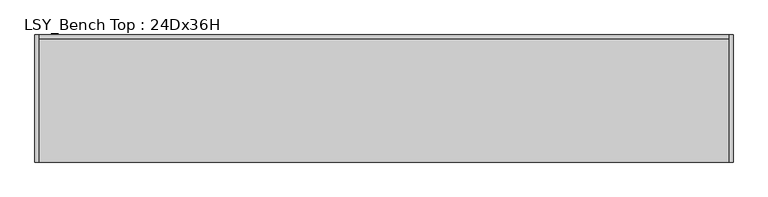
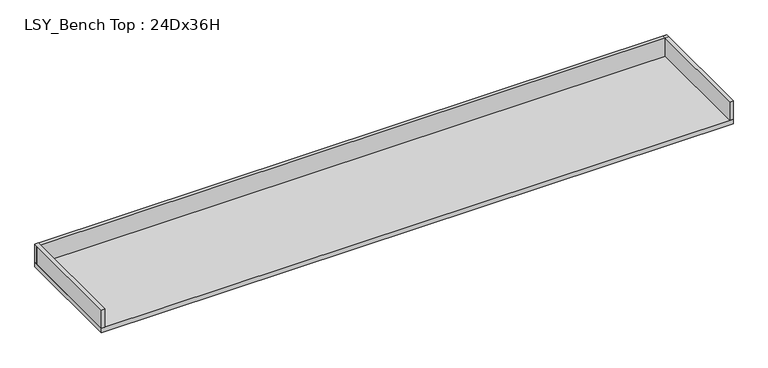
"""IFC4 building model written with IfcOpenShell, lengths in millimetres: furniture geometry, LSY_Bench Top : 24Dx36H."""

from ifc_helpers import new_model, si_unit, frame, origin, place, context, project, spatial, polyline, outline, extrude, source, transform, mapped, element, save


def lsy_bench_top_24dx36h_08832318(model_context):
    return source(origin(), model_context, "Body", "SweptSolid", [
        extrude(outline(polyline([(2147.5752049, -615.0), (2147.5752049, -1224.6), (2128.5752049, -1224.6), (2128.5752049, -615.0), (2147.5752049, -615.0)])), frame((0.0, 0.0, 914.4), z_axis=(0.0, 0.0, 1.0), x_axis=(1.0, 0.0, 0.0)), (0.0, 0.0, 1.0), 102.0),
        extrude(outline(polyline([(-1200.4622951, -615.0), (-1181.4622951, -615.0), (-1181.4622951, -1224.6), (-1200.4622951, -1224.6), (-1200.4622951, -615.0)])), frame((0.0, 0.0, 914.4), z_axis=(0.0, 0.0, 1.0), x_axis=(1.0, 0.0, 0.0)), (0.0, 0.0, 1.0), 102.0),
        extrude(outline(polyline([(2147.5752049, -615.0), (2147.5752049, -1224.6), (-1200.4622951, -1224.6), (-1200.4622951, -615.0), (2147.5752049, -615.0)])), frame((0.0, 0.0, 889.0), z_axis=(0.0, 0.0, 1.0), x_axis=(1.0, 0.0, 0.0)), (0.0, 0.0, 1.0), 25.4),
        extrude(outline(polyline([(2147.5752049, -615.0), (2147.5752049, -634.0), (-1200.4622951, -634.0), (-1200.4622951, -615.0), (2147.5752049, -615.0)])), frame((0.0, 0.0, 914.4), z_axis=(0.0, 0.0, 1.0), x_axis=(1.0, 0.0, 0.0)), (0.0, 0.0, 1.0), 102.0),
    ])


if __name__ == "__main__":
    model = new_model("IFC4")
    model_context = context("Model", 3, world=origin())
    ifc_project = project(units=[si_unit("LENGTHUNIT", "METRE", prefix="MILLI")], contexts=[model_context])
    site = spatial("IfcSite", under=ifc_project)
    building = spatial("IfcBuilding", under=site)
    placement = place(None, origin())
    lsy_bench_top_24dx36h_shape = lsy_bench_top_24dx36h_08832318(model_context)
    element("IfcFurniture", 1, ObjectType="LSY_Bench Top : 24Dx36H", at=placement, inside=building, context=model_context, shape_type="MappedRepresentation", body=[
        mapped(lsy_bench_top_24dx36h_shape, transform((0.0, 0.0, 0.0), x_axis=(1.0, 0.0, 0.0), y_axis=(0.0, 1.0, 0.0), z_axis=(0.0, 0.0, 1.0))),
    ])
    save(model, "model.ifc")
